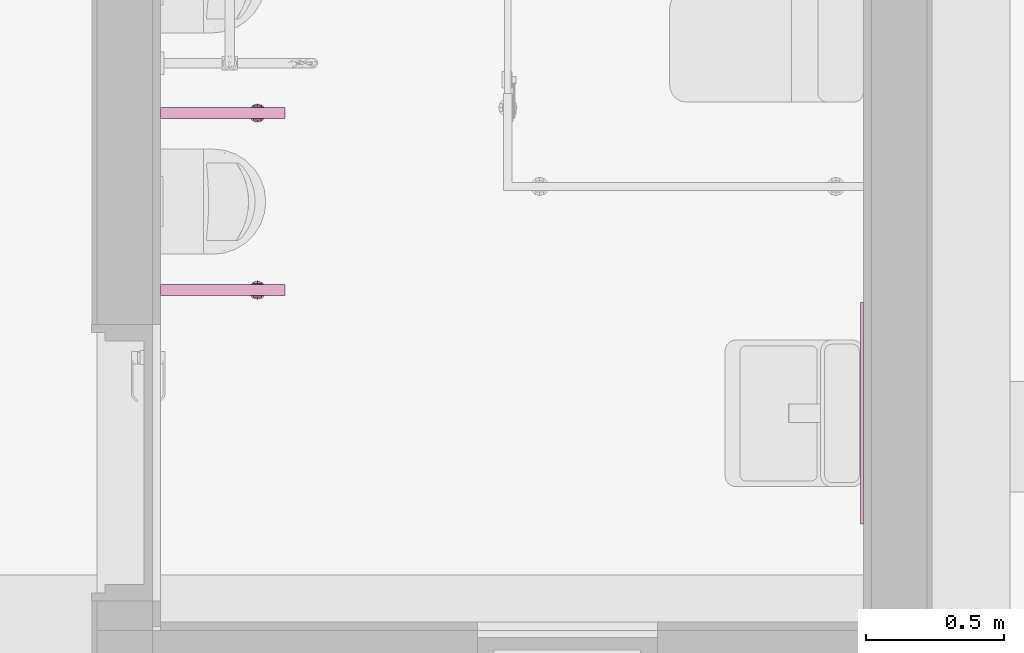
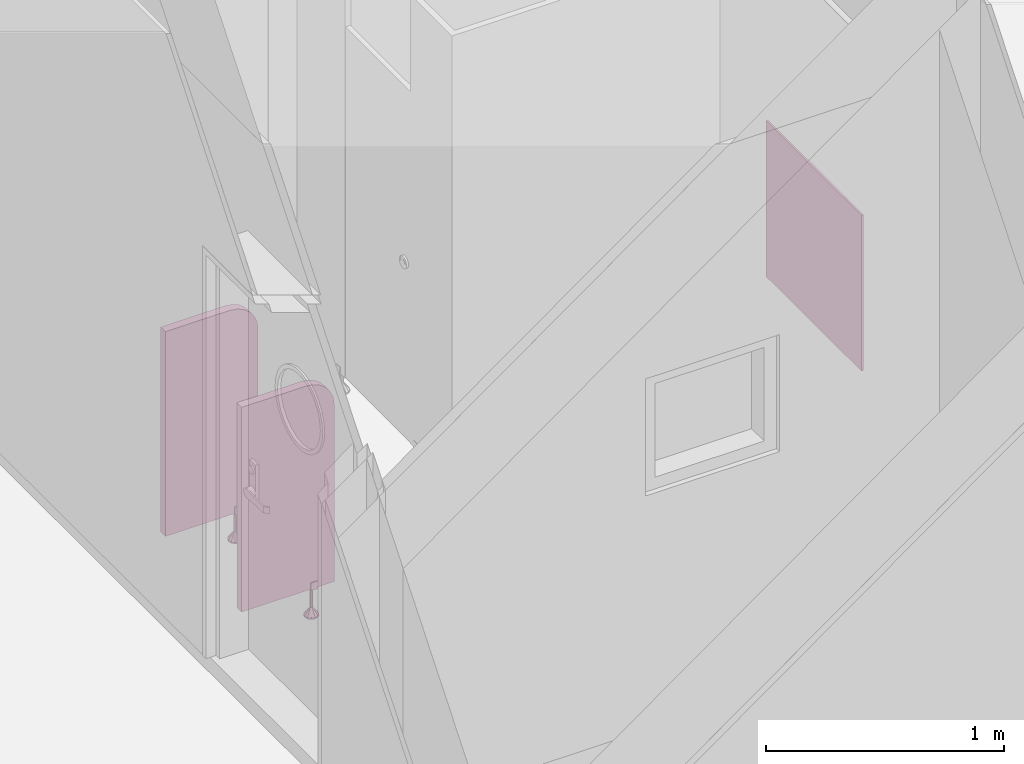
# One storey, part 71 of 74: 3 furnishings.
"""IFC2X3 building model written with IfcOpenShell, lengths in millimetres."""

from ifc_helpers import new_model, entity, si_unit, converted_unit, derived_unit, direction, frame, origin, origin_2d_with_axis, place, context, subcontext, project, spatial, rectangle, extrude, faceted_brep, source, transform, mapped, material, material_list, type_object, type_shapes, element, save


model = new_model("IFC2X3")

# Units and contexts
model_context = context("Model", 3, precision=0.01, world=origin(), true_north=direction((6.123031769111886e-17, 1.0)))
body_context = subcontext(model_context, "Body", "Model", "MODEL_VIEW")
ifc_project = project(units=[si_unit("LENGTHUNIT", "METRE", prefix="MILLI"), si_unit("AREAUNIT", "SQUARE_METRE"), si_unit("VOLUMEUNIT", "CUBIC_METRE"), converted_unit("PLANEANGLEUNIT", "DEGREE", entity("IfcRatioMeasure", 0.017453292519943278), si_unit("PLANEANGLEUNIT", "RADIAN"), dimensions=[0, 0, 0, 0, 0, 0, 0]), si_unit("MASSUNIT", "GRAM", prefix="KILO"), derived_unit("MASSDENSITYUNIT", [(si_unit("MASSUNIT", "GRAM", prefix="KILO"), 1), (si_unit("LENGTHUNIT", "METRE"), -3)]), derived_unit("MOMENTOFINERTIAUNIT", [(si_unit("LENGTHUNIT", "METRE"), 4)]), si_unit("TIMEUNIT", "SECOND"), si_unit("FREQUENCYUNIT", "HERTZ"), si_unit("THERMODYNAMICTEMPERATUREUNIT", "DEGREE_CELSIUS"), derived_unit("THERMALTRANSMITTANCEUNIT", [(si_unit("MASSUNIT", "GRAM", prefix="KILO"), 1), (si_unit("THERMODYNAMICTEMPERATUREUNIT", "KELVIN"), -1), (si_unit("TIMEUNIT", "SECOND"), -3)]), derived_unit("VOLUMETRICFLOWRATEUNIT", [(si_unit("LENGTHUNIT", "METRE"), 3), (si_unit("TIMEUNIT", "SECOND"), -1)]), derived_unit("MASSFLOWRATEUNIT", [(si_unit("MASSUNIT", "GRAM", prefix="KILO"), 1), (si_unit("TIMEUNIT", "SECOND"), -1)]), derived_unit("ROTATIONALFREQUENCYUNIT", [(si_unit("TIMEUNIT", "SECOND"), -1)]), si_unit("ELECTRICCURRENTUNIT", "AMPERE"), si_unit("ELECTRICVOLTAGEUNIT", "VOLT"), si_unit("POWERUNIT", "WATT"), si_unit("FORCEUNIT", "NEWTON", prefix="KILO"), si_unit("ILLUMINANCEUNIT", "LUX"), si_unit("LUMINOUSFLUXUNIT", "LUMEN"), si_unit("LUMINOUSINTENSITYUNIT", "CANDELA"), derived_unit("USERDEFINED", [(si_unit("MASSUNIT", "GRAM", prefix="KILO"), -1), (si_unit("LENGTHUNIT", "METRE"), -2), (si_unit("TIMEUNIT", "SECOND"), 3), (si_unit("LUMINOUSFLUXUNIT", "LUMEN"), 1)]), derived_unit("SOUNDPOWERUNIT", [(si_unit("MASSUNIT", "GRAM", prefix="KILO"), 1), (si_unit("LENGTHUNIT", "METRE"), 2), (si_unit("TIMEUNIT", "SECOND"), -3)]), derived_unit("SOUNDPRESSUREUNIT", [(si_unit("MASSUNIT", "GRAM", prefix="KILO"), 1), (si_unit("LENGTHUNIT", "METRE"), -1), (si_unit("TIMEUNIT", "SECOND"), -2)]), derived_unit("LINEARVELOCITYUNIT", [(si_unit("LENGTHUNIT", "METRE"), 1), (si_unit("TIMEUNIT", "SECOND"), -1)]), si_unit("PRESSUREUNIT", "PASCAL"), derived_unit("USERDEFINED", [(si_unit("LENGTHUNIT", "METRE"), -2), (si_unit("MASSUNIT", "GRAM", prefix="KILO"), 1), (si_unit("TIMEUNIT", "SECOND"), -2)]), derived_unit("LINEARFORCEUNIT", [(si_unit("MASSUNIT", "GRAM", prefix="KILO"), 1), (si_unit("LENGTHUNIT", "METRE"), 1), (si_unit("TIMEUNIT", "SECOND"), -2), (si_unit("LENGTHUNIT", "METRE"), -1)]), derived_unit("PLANARFORCEUNIT", [(si_unit("MASSUNIT", "GRAM", prefix="KILO"), 1), (si_unit("LENGTHUNIT", "METRE"), 1), (si_unit("TIMEUNIT", "SECOND"), -2), (si_unit("LENGTHUNIT", "METRE"), -2)])], contexts=[model_context])

# Site, building, storey, space
site_placement = place(None, frame((-14167.972527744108, -657.2125860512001, 0.0)))
site = spatial("IfcSite", under=ifc_project, at=site_placement, Name="Default", CompositionType="ELEMENT")
building_placement = place(site_placement, origin())
building = spatial("IfcBuilding", under=site, at=building_placement, Name="Sample Building", CompositionType="ELEMENT")
storey_placement = place(building_placement, frame((0.0, 0.0, 4800.0)))
storey = spatial("IfcBuildingStorey", under=building, at=storey_placement, Name="지상 2층", CompositionType="ELEMENT", Elevation=4800.000000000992)
space_placement = place(storey_placement, origin())
space = spatial("IfcSpace", under=storey, at=space_placement, Name="189", CompositionType="ELEMENT", InteriorOrExteriorSpace="INTERNAL")

# Furnishings
ifc_material_1 = material(Name="KBIMS-거울")
furniture_type_1 = type_object("IfcFurnitureType", Name="PF531-거울:PF531-거울 800x800", material=ifc_material_1)
shared_shape_1 = source(origin(), body_context, "Body", "SweptSolid", [
    extrude(rectangle(XDim=10.000000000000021, YDim=799.9999999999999, at=origin_2d_with_axis()), frame((0.0, 5.0, 0.0), z_axis=(0.0, 0.0, 1.0), x_axis=(0.0, 1.0, 0.0)), (0.0, 0.0, 1.0), 800.0000000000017),
])
type_shapes(furniture_type_1, [shared_shape_1])
furnishing_1_placement = place(space_placement, frame((40737.96375501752, 23242.21230182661, 1000.0), z_axis=(0.0, 0.0, 1.0), x_axis=(0.0, 1.0, 0.0)))
element("IfcFurnishingElement", 1, at=furnishing_1_placement, inside=space, type_object=furniture_type_1, material=ifc_material_1, Name="PF531-거울:PF531-거울 800x800", ObjectType="PF531-거울:PF531-거울 800x800", context=body_context, shape_type="MappedRepresentation", body=[
    mapped(shared_shape_1, transform((0.0, 0.0, 0.0), scale=1.0)),
])
ifc_material_2 = material(Name="KBIMS-스테인리스 스틸_도금")
ifc_material_3 = material(Name="KBIMS-이동식칸막이")
ifc_material_list_1 = material_list([ifc_material_2, ifc_material_2, ifc_material_3])
ifc_material_list_2 = material_list([ifc_material_2, ifc_material_2, ifc_material_3])
furniture_type_2 = type_object("IfcFurnitureType", Name="PF582-소변기 칸막이:PF582-소변기 칸막이", material=ifc_material_list_2)
shared_shape_2 = source(origin(), body_context, "Body", "Brep", [
    faceted_brep([(-25.0, -365.0, 145.0), (25.0, -365.0, 145.0), (25.0, -365.0, 185.0), (20.0, -365.0, 185.0), (20.0, -365.0, 150.0), (-20.0, -365.0, 150.0), (-20.0, -365.0, 185.0), (-25.0, -365.0, 185.0), (-25.0, -335.0, 145.0), (-25.0, -335.0, 185.0), (-20.0, -335.0, 185.0), (-20.0, -335.0, 150.0), (20.0, -335.0, 150.0), (20.0, -335.0, 185.0), (25.0, -335.0, 185.0), (25.0, -335.0, 145.0)], [[[0, 1, 2, 3, 4, 5, 6, 7]], [[8, 9, 10, 11, 12, 13, 14, 15]], [[1, 0, 8, 15]], [[2, 1, 15, 14]], [[3, 2, 14, 13]], [[4, 3, 13, 12]], [[5, 4, 12, 11]], [[6, 5, 11, 10]], [[7, 6, 10, 9]], [[0, 7, 9, 8]]]),
    faceted_brep([(-22.500526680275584, -327.4994733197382, 7.2339182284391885), (-4.687500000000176, -345.1286071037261, 43.5703700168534), (-3.7500000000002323, -343.5048094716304, 43.5703700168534), (-6.562500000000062, -348.3762023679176, 43.5703700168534), (-5.625000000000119, -346.7524047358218, 43.5703700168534), (-30.736291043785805, -341.7642356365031, 7.233918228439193), (-28.529524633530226, -333.5284712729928, 7.2339182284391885), (-32.94305745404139, -350.0, 7.233918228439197), (-7.500000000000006, -350.0, 43.5703700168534), (-8.235764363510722, -319.26370895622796, 7.2339182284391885), (-16.47152872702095, -321.4704753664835, 7.2339182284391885), (-1.8750000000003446, -343.5048094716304, 43.5703700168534), (0.0, -343.5048094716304, 43.5703700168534), (0.0, -317.0569425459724, 7.2339182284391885), (3.7499999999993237, -343.5048094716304, 43.5703700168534), (16.471528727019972, -321.47047536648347, 7.2339182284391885), (1.8749999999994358, -343.5048094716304, 43.5703700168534), (8.235764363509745, -319.2637089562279, 7.2339182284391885), (-31.34057496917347, -344.019453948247, 7.2339182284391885), (32.943057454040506, -350.0, 7.2339182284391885), (6.56249999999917, -348.3762023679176, 43.5703700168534), (7.499999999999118, -350.0, 43.5703700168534), (4.687499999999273, -345.1286071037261, 43.5703700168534), (5.62499999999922, -346.7524047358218, 43.5703700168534), (22.50052668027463, -327.4994733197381, 7.2339182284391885), (30.339293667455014, -340.2826212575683, 7.2339182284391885), (28.529524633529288, -333.52847127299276, 7.2339182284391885), (30.73629104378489, -341.764235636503, 7.2339182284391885), (3.7499999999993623, -356.4951905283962, 43.5703700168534), (16.471528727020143, -378.52952463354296, 7.2339182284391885), (22.50052668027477, -372.5005266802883, 7.2339182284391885), (0.0, -356.4951905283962, 43.5703700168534), (8.235764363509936, -380.73629104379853, 7.2339182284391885), (1.8749999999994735, -356.4951905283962, 43.5703700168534), (-3.7500000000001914, -356.4951905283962, 43.5703700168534), (-8.23576436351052, -380.7362910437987, 7.2339182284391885), (-1.8750000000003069, -356.4951905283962, 43.5703700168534), (6.562499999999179, -351.623797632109, 43.5703700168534), (5.62499999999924, -353.24759526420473, 43.5703700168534), (30.73629104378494, -358.23576436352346, 7.233918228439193), (4.687499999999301, -354.87139289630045, 43.5703700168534), (-22.500526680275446, -372.50052668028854, 7.2339182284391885), (-16.471528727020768, -378.5295246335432, 7.2339182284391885), (-4.687500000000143, -354.87139289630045, 43.5703700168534), (0.0, -382.9430574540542, 7.2339182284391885), (-5.625000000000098, -353.24759526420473, 43.5703700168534), (-6.562500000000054, -351.623797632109, 43.5703700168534), (-28.529524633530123, -366.47152872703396, 7.2339182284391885), (-30.339293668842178, -359.7173787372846, 7.2339182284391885), (31.340574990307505, -355.980545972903, 7.2339182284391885), (28.529524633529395, -366.4715287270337, 7.2339182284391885), (-30.73629104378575, -358.23576436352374, 7.2339182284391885), (-28.52952463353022, -333.5284712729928, 0.0), (-30.7362910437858, -341.7642356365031, 0.0), (-32.94305745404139, -350.0, 0.0), (-16.471528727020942, -321.4704753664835, 0.0), (-22.500526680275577, -327.4994733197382, 0.0), (0.0, -317.0569425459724, 0.0), (-8.235764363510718, -319.26370895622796, 0.0), (16.47152872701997, -321.47047536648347, 0.0), (8.235764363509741, -319.2637089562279, 0.0), (28.52952463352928, -333.52847127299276, 0.0), (22.500526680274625, -327.4994733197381, 0.0), (32.9430574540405, -350.0, 0.0), (31.340574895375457, -344.01945367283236, 0.0), (28.529524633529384, -366.4715287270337, 0.0), (30.73629104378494, -358.23576436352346, 0.0), (16.47152872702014, -378.52952463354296, 0.0), (22.500526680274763, -372.5005266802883, 0.0), (0.0, -382.9430574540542, 0.0), (8.235764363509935, -380.73629104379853, 0.0), (-16.471528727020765, -378.5295246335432, 0.0), (-8.235764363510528, -380.7362910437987, 0.0), (-28.529524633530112, -366.47152872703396, 0.0), (-22.500526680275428, -372.50052668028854, 0.0), (-31.340574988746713, -355.98054597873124, 0.0), (0.0, -350.0, 0.0), (0.0, -350.0, 145.0), (7.49999999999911, -350.0, 145.0), (3.749999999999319, -343.5048094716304, 145.0), (-3.7500000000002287, -343.5048094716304, 145.0), (-7.499999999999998, -350.0, 145.0), (3.7499999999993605, -356.4951905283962, 145.0), (-3.7500000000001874, -356.4951905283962, 145.0)], [[[0, 1, 2]], [[3, 4, 5]], [[6, 1, 0]], [[6, 4, 1]], [[7, 8, 3]], [[9, 10, 11]], [[12, 13, 9]], [[14, 15, 16]], [[10, 2, 11]], [[12, 17, 13]], [[17, 12, 16]], [[12, 9, 11]], [[3, 5, 18, 7]], [[19, 20, 21]], [[15, 14, 22]], [[22, 23, 24]], [[25, 26, 23]], [[4, 6, 5]], [[2, 10, 0]], [[16, 15, 17]], [[20, 19, 27, 25]], [[25, 23, 20]], [[23, 26, 24]], [[15, 22, 24]], [[28, 29, 30]], [[31, 32, 33]], [[34, 35, 36]], [[37, 38, 39]], [[30, 40, 28]], [[41, 42, 43]], [[32, 29, 33]], [[31, 44, 32]], [[19, 21, 37]], [[36, 35, 44]], [[34, 42, 35]], [[45, 41, 43]], [[7, 46, 8]], [[42, 34, 43]], [[45, 47, 41]], [[48, 47, 45]], [[37, 39, 49, 19]], [[38, 50, 39]], [[38, 40, 50]], [[29, 28, 33]], [[50, 40, 30]], [[44, 31, 36]], [[46, 7, 51, 48]], [[48, 45, 46]], [[52, 53, 54, 7, 18, 5, 6]], [[10, 55, 56, 52, 6, 0]], [[55, 10, 9, 13, 57, 58]], [[15, 59, 60, 57, 13, 17]], [[26, 61, 62, 59, 15, 24]], [[61, 26, 25, 27, 19, 63, 64]], [[65, 66, 63, 19, 49, 39, 50]], [[29, 67, 68, 65, 50, 30]], [[67, 29, 32, 44, 69, 70]], [[42, 71, 72, 69, 44, 35]], [[47, 73, 74, 71, 42, 41]], [[73, 47, 48, 51, 7, 54, 75]], [[76, 61, 64]], [[76, 64, 63]], [[76, 63, 66]], [[76, 62, 61]], [[76, 59, 62]], [[76, 60, 59]], [[76, 57, 60]], [[76, 58, 57]], [[76, 55, 58]], [[76, 56, 55]], [[76, 52, 56]], [[76, 53, 52]], [[76, 54, 53]], [[76, 66, 65]], [[76, 65, 68]], [[76, 68, 67]], [[76, 67, 70]], [[76, 70, 69]], [[76, 69, 72]], [[76, 75, 54]], [[76, 73, 75]], [[76, 74, 73]], [[76, 71, 74]], [[76, 72, 71]], [[77, 78, 79]], [[79, 80, 77]], [[80, 81, 77]], [[77, 82, 78]], [[81, 83, 77]], [[82, 77, 83]], [[81, 80, 2, 1, 4, 3, 8]], [[80, 79, 14, 16, 12, 11, 2]], [[79, 78, 21, 20, 23, 22, 14]], [[78, 82, 28, 40, 38, 37, 21]], [[82, 83, 34, 36, 31, 33, 28]], [[83, 81, 8, 46, 45, 43, 34]]]),
    faceted_brep([(20.0, 0.0, 150.0), (20.0, 0.0, 1200.0), (20.0, -310.0, 1200.0), (20.0, -346.2346663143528, 1195.2296156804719), (20.0, -380.0, 1181.2435565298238), (20.0, -408.9949493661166, 1158.9949493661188), (20.0, -431.2435565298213, 1130.0), (20.0, -445.2296156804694, 1096.234666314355), (20.0, -450.0, 1060.0), (20.0, -450.0, 150.0), (-20.0, -431.2435565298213, 1130.0), (-20.0, -408.9949493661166, 1158.9949493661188), (-20.0, -380.0, 1181.2435565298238), (-20.0, -346.2346663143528, 1195.2296156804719), (-20.0, -310.0, 1200.0), (-20.0, 0.0, 1200.0), (-20.0, 0.0, 150.0), (-20.0, -450.0, 150.0), (-20.0, -450.0, 1060.0), (-20.0, -445.2296156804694, 1096.234666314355)], [[[0, 1, 2, 3, 4, 5, 6, 7, 8, 9]], [[10, 11, 12, 13, 14, 15, 16, 17, 18, 19]], [[2, 1, 15, 14]], [[3, 2, 14, 13]], [[4, 3, 13, 12]], [[5, 4, 12, 11]], [[6, 5, 11, 10]], [[7, 6, 10, 19]], [[8, 7, 19, 18]], [[9, 8, 18, 17]], [[0, 9, 17, 16]], [[1, 0, 16, 15]]]),
])
type_shapes(furniture_type_2, [shared_shape_2])
furnishing_2_placement = place(space_placement, frame((38197.963755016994, 24327.099955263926, 0.0), z_axis=(0.0, 0.0, 1.0), x_axis=(0.0, 1.0, 0.0)))
element("IfcFurnishingElement", 2, at=furnishing_2_placement, inside=space, type_object=furniture_type_2, material=ifc_material_list_1, Name="PF582-소변기 칸막이:PF582-소변기 칸막이", ObjectType="PF582-소변기 칸막이:PF582-소변기 칸막이", context=body_context, shape_type="MappedRepresentation", body=[
    mapped(shared_shape_2, transform((0.0, 0.0, 0.0), scale=1.0)),
])
ifc_material_list_3 = material_list([ifc_material_2, ifc_material_3])
furnishing_3_placement = place(space_placement, frame((38197.963755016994, 23687.099955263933, 0.0), z_axis=(0.0, 0.0, 1.0), x_axis=(0.0, 1.0, 0.0)))
element("IfcFurnishingElement", 3, at=furnishing_3_placement, inside=space, type_object=furniture_type_2, material=ifc_material_list_3, Name="PF582-소변기 칸막이:PF582-소변기 칸막이", ObjectType="PF582-소변기 칸막이:PF582-소변기 칸막이", context=body_context, shape_type="MappedRepresentation", body=[
    mapped(shared_shape_2, transform((0.0, 0.0, 0.0), scale=1.0)),
])

save(model, "model.ifc")
